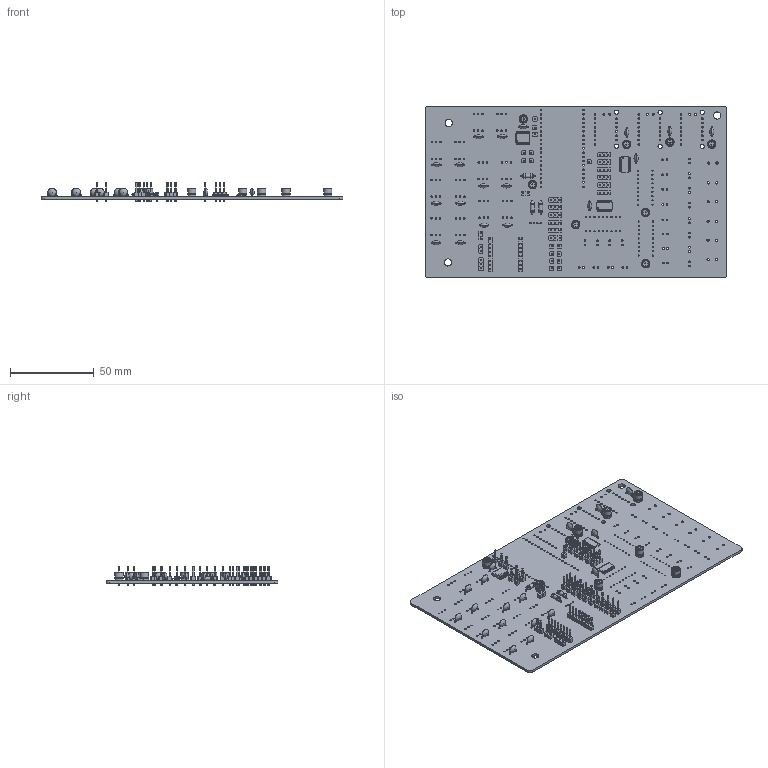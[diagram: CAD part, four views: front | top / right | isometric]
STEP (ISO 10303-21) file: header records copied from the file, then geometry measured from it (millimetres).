
FILE_DESCRIPTION(('KiCad electronic assembly'),'2;1');
FILE_NAME('Bigthemio.step','2026-05-02T15:58:40',('Pcbnew'),('Kicad'), 'Open CASCADE STEP processor 7.8','KiCad to STEP converter','Unknown' );
FILE_SCHEMA(('AUTOMOTIVE_DESIGN { 1 0 10303 214 1 1 1 1 }'));
Length unit declared in the file: millimetre
Products named in the file (11): Bigthemio 1; C_Disc_D5.0mm_W2.5mm_P5.00mm; PinHeader_1x01_P2.54mm_Vertical; PinHeader_1x03_P2.54mm_Vertical; CP_Radial_D5.0mm_P2.00mm; TSSOP-28_4.4x9.7mm_P0.65mm; PinHeader_1x08_P2.54mm_Vertical; R_Axial_DIN0207_L6.3mm_D2.5mm_P7.62mm_Horizontal; PinHeader_1x02_P2.54mm_Vertical; SSOP-24_5.3x8.2mm_P0.65mm; Bigthemio_PCB
Assembly tree (67 placements, depth 2):
  Bigthemio 1
    C_Disc_D5.0mm_W2.5mm_P5.00mm  x18
    PinHeader_1x01_P2.54mm_Vertical  x16
    PinHeader_1x03_P2.54mm_Vertical  x13
    CP_Radial_D5.0mm_P2.00mm  x8
    TSSOP-28_4.4x9.7mm_P0.65mm  x2
    PinHeader_1x08_P2.54mm_Vertical  x2
    R_Axial_DIN0207_L6.3mm_D2.5mm_P7.62mm_Horizontal  x3
    PinHeader_1x02_P2.54mm_Vertical  x3
    SSOP-24_5.3x8.2mm_P0.65mm
    Bigthemio_PCB
Bounding box: 180.05 x 102.45 x 11.54 mm (x, y, z)
Volume: 30344.5 mm3; surface area: 46014.8 mm2
Topology: 67 solids, 75 shells, 4312 faces, 10876 edges, 6863 vertices
Faces by surface type: plane 3141, cylinder 935, bspline 96, revolution 76, sphere 36, torus 28
Full cylindrical faces by diameter (mm): 0.5 x88, 0.6 x6, 0.67 x54, 0.8 x58, 0.85 x4, 0.9 x110, 1 x149, 1.05 x24, 1.3 x12, 2.25 x3, 2.5 x12, 4.3 x3
Entity records: 66538 total; most frequent: CARTESIAN_POINT 10587, DIRECTION 9246, ORIENTED_EDGE 9087, EDGE_CURVE 4544, LINE 3125, VECTOR 3125, AXIS2_PLACEMENT_3D 3057, VERTEX_POINT 2912
